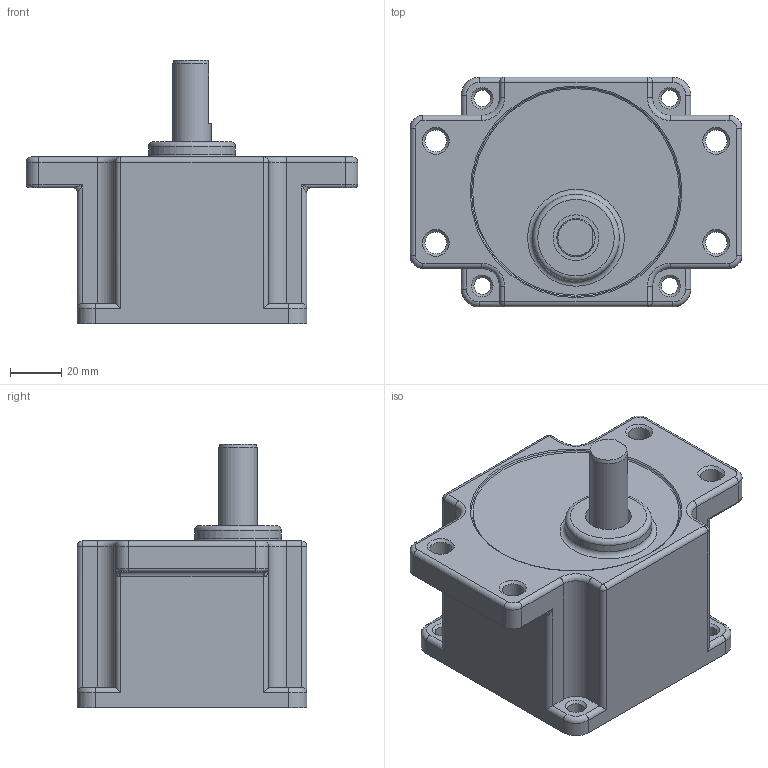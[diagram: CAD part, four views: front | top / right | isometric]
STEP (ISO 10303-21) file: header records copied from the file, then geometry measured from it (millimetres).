
FILE_DESCRIPTION((''),'2;1');
FILE_NAME('D:\STP파일\GEAR HEAD\60W\S9DC3~200-S.stp','2013-05-20T19:17:59',('leebh'),(''),'Autodesk Inventor 2011','Autodesk Inventor 2011','');
FILE_SCHEMA(('AUTOMOTIVE_DESIGN { 1 0 10303 214 1 1 1 1 }'));
Length unit declared in the file: millimetre
Products named in the file (1): S9I90G-T1
Bounding box: 130 x 90 x 103.5 mm (x, y, z)
Volume: 489137.9 mm3; surface area: 49522.3 mm2
Topology: 2 solids, 2 shells, 141 faces, 321 edges, 181 vertices
Faces by surface type: cylinder 61, plane 31, torus 24, cone 17, bspline 4, sphere 4
Full cylindrical faces by diameter (mm): 6.5 x4, 8.5 x4, 12 x1, 15 x1, 18 x1, 34 x1, 83 x1
Entity records: 3998 total; most frequent: CARTESIAN_POINT 887, DIRECTION 702, ORIENTED_EDGE 558, AXIS2_PLACEMENT_3D 295, EDGE_CURVE 279, EDGE_LOOP 195, VERTEX_POINT 180, CIRCLE 149
